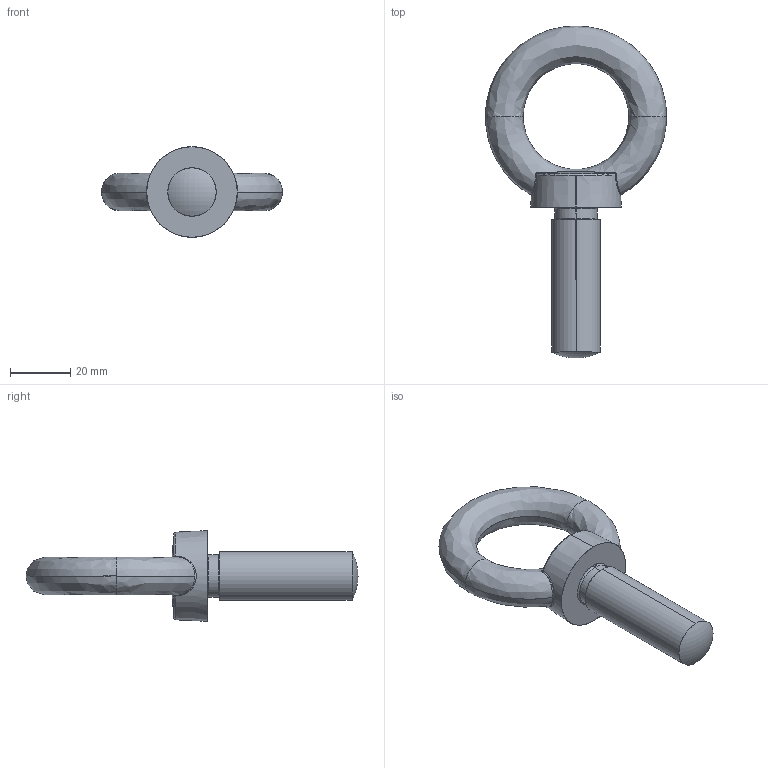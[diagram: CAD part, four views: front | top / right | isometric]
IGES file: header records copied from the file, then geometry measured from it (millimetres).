
Start section: SolidWorks IGES FILE using analytic representation for surfaces
Global section: file name: \\Ls-wvld1d\share\シブタニ\3D設計\ネジ・アイボルト\EB-901(S)-1650\EB-901(S)-1650.IGS,41HSolidWorks; native system: 2003 by SolidWorks Corporation; preprocessor: Version 5.3; author: user; date: 130703.175658; units: millimetre
Bounding box: 60 x 109.98 x 30 mm (x, y, z)
Surface area: 9489.3 mm2 (no closed solid volume)
Topology: 0 solids, 0 shells, 31 faces, 495 edges, 495 vertices
Faces by surface type: bspline 21, revolution 10
